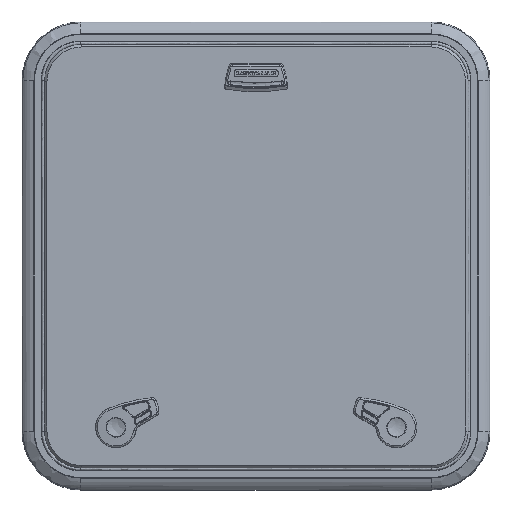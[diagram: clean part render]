
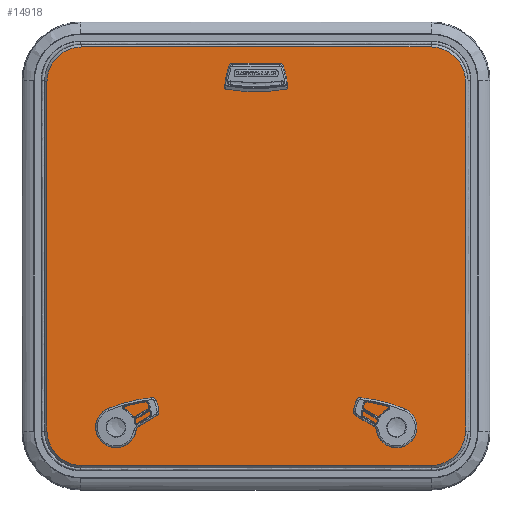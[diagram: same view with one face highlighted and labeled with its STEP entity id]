
A CAD part, top view. The second image highlights one B-rep face of the part: STEP entity #14918.
In plain terms, the highlighted planar face has unit normal (0, 0, 1) as drawn and (0, 1, 0) by its records, which use the part's own axes.
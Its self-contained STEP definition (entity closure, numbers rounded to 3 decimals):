
#13965=CARTESIAN_POINT('',(21.55,10.,-224.5));
#13966=DIRECTION('',(0.,-1.,0.));
#13967=DIRECTION('',(0.,0.,-1.));
#13968=AXIS2_PLACEMENT_3D('',#13965,#13966,#13967);
#13970=DIRECTION('',(1.,0.,0.));
#13971=VECTOR('',#13970,43.1);
#13972=CARTESIAN_POINT('',(-21.55,10.,-230.));
#13973=LINE('',#13972,#13971);
#13974=CARTESIAN_POINT('',(-21.55,10.,-224.5));
#13975=DIRECTION('',(0.,-1.,0.));
#13976=DIRECTION('',(0.,0.,1.));
#13977=AXIS2_PLACEMENT_3D('',#13974,#13975,#13976);
#13979=DIRECTION('',(-1.,0.,0.));
#13980=VECTOR('',#13979,43.1);
#13981=CARTESIAN_POINT('',(21.55,10.,-219.));
#13982=LINE('',#13981,#13980);
#13983=CARTESIAN_POINT('',(-168.198,10.,214.117));
#13984=DIRECTION('',(0.,-1.,0.));
#13985=DIRECTION('',(0.866,0.,-0.5));
#13986=AXIS2_PLACEMENT_3D('',#13983,#13984,#13985);
#13988=DIRECTION('',(0.5,0.,0.866));
#13989=VECTOR('',#13988,10.2);
#13990=CARTESIAN_POINT('',(-168.968,10.,202.783));
#13991=LINE('',#13990,#13989);
#13992=CARTESIAN_POINT('',(-173.298,10.,205.283));
#13993=DIRECTION('',(0.,-1.,0.));
#13994=DIRECTION('',(-0.5,0.,-0.866));
#13995=AXIS2_PLACEMENT_3D('',#13992,#13993,#13994);
#13997=DIRECTION('',(0.866,0.,-0.5));
#13998=VECTOR('',#13997,5.2);
#13999=CARTESIAN_POINT('',(-180.302,10.,203.553));
#14000=LINE('',#13999,#13998);
#14001=CARTESIAN_POINT('',(-177.802,10.,207.883));
#14002=DIRECTION('',(0.,-1.,0.));
#14003=DIRECTION('',(-0.866,0.,0.5));
#14004=AXIS2_PLACEMENT_3D('',#14001,#14002,#14003);
#14006=DIRECTION('',(-0.5,0.,-0.866));
#14007=VECTOR('',#14006,10.2);
#14008=CARTESIAN_POINT('',(-177.032,10.,219.217));
#14009=LINE('',#14008,#14007);
#14010=CARTESIAN_POINT('',(-172.702,10.,216.717));
#14011=DIRECTION('',(0.,-1.,0.));
#14012=DIRECTION('',(0.5,0.,0.866));
#14013=AXIS2_PLACEMENT_3D('',#14010,#14011,#14012);
#14015=DIRECTION('',(-0.866,0.,0.5));
#14016=VECTOR('',#14015,5.2);
#14017=CARTESIAN_POINT('',(-165.698,10.,218.447));
#14018=LINE('',#14017,#14016);
#14019=CARTESIAN_POINT('',(168.198,10.,214.117));
#14020=DIRECTION('',(0.,1.,0.));
#14021=DIRECTION('',(-0.866,0.,-0.5));
#14022=AXIS2_PLACEMENT_3D('',#14019,#14020,#14021);
#14024=DIRECTION('',(0.866,0.,0.5));
#14025=VECTOR('',#14024,5.2);
#14026=CARTESIAN_POINT('',(165.698,10.,218.447));
#14027=LINE('',#14026,#14025);
#14028=CARTESIAN_POINT('',(172.702,10.,216.717));
#14029=DIRECTION('',(0.,1.,0.));
#14030=DIRECTION('',(-0.5,0.,0.866));
#14031=AXIS2_PLACEMENT_3D('',#14028,#14029,#14030);
#14033=DIRECTION('',(0.5,0.,-0.866));
#14034=VECTOR('',#14033,10.2);
#14035=CARTESIAN_POINT('',(177.032,10.,219.217));
#14036=LINE('',#14035,#14034);
#14037=CARTESIAN_POINT('',(177.802,10.,207.883));
#14038=DIRECTION('',(0.,1.,0.));
#14039=DIRECTION('',(0.866,0.,0.5));
#14040=AXIS2_PLACEMENT_3D('',#14037,#14038,#14039);
#14042=DIRECTION('',(-0.866,0.,-0.5));
#14043=VECTOR('',#14042,5.2);
#14044=CARTESIAN_POINT('',(180.302,10.,203.553));
#14045=LINE('',#14044,#14043);
#14046=CARTESIAN_POINT('',(173.298,10.,205.283));
#14047=DIRECTION('',(0.,1.,0.));
#14048=DIRECTION('',(0.5,0.,-0.866));
#14049=AXIS2_PLACEMENT_3D('',#14046,#14047,#14048);
#14051=DIRECTION('',(-0.5,0.,0.866));
#14052=VECTOR('',#14051,10.2);
#14053=CARTESIAN_POINT('',(168.968,10.,202.783));
#14054=LINE('',#14053,#14052);
#14055=DIRECTION('',(-1.,0.,0.));
#14056=VECTOR('',#14055,431.);
#14057=CARTESIAN_POINT('',(215.5,10.,-258.));
#14058=LINE('',#14057,#14056);
#14059=CARTESIAN_POINT('',(215.5,10.,-215.5));
#14060=DIRECTION('',(0.,1.,0.));
#14061=DIRECTION('',(1.,0.,0.));
#14062=AXIS2_PLACEMENT_3D('',#14059,#14060,#14061);
#14064=DIRECTION('',(0.,0.,-1.));
#14065=VECTOR('',#14064,431.);
#14066=CARTESIAN_POINT('',(258.,10.,215.5));
#14067=LINE('',#14066,#14065);
#14068=CARTESIAN_POINT('',(215.5,10.,215.5));
#14069=DIRECTION('',(0.,1.,0.));
#14070=DIRECTION('',(0.,0.,1.));
#14071=AXIS2_PLACEMENT_3D('',#14068,#14069,#14070);
#14073=DIRECTION('',(1.,0.,0.));
#14074=VECTOR('',#14073,431.);
#14075=CARTESIAN_POINT('',(-215.5,10.,258.));
#14076=LINE('',#14075,#14074);
#14077=CARTESIAN_POINT('',(-215.5,10.,215.5));
#14078=DIRECTION('',(0.,1.,0.));
#14079=DIRECTION('',(-1.,0.,0.));
#14080=AXIS2_PLACEMENT_3D('',#14077,#14078,#14079);
#14082=DIRECTION('',(0.,0.,1.));
#14083=VECTOR('',#14082,431.);
#14084=CARTESIAN_POINT('',(-258.,10.,-215.5));
#14085=LINE('',#14084,#14083);
#14086=CARTESIAN_POINT('',(-215.5,10.,-215.5));
#14087=DIRECTION('',(0.,1.,0.));
#14088=DIRECTION('',(0.,0.,-1.));
#14089=AXIS2_PLACEMENT_3D('',#14086,#14087,#14088);
#14330=CARTESIAN_POINT('',(21.55,10.,-230.));
#14331=CARTESIAN_POINT('',(21.55,10.,-219.));
#14332=VERTEX_POINT('',#14330);
#14333=VERTEX_POINT('',#14331);
#14334=CARTESIAN_POINT('',(-21.55,10.,-219.));
#14335=VERTEX_POINT('',#14334);
#14336=CARTESIAN_POINT('',(-21.55,10.,-230.));
#14337=VERTEX_POINT('',#14336);
#14386=CARTESIAN_POINT('',(-163.868,10.,211.617));
#14387=CARTESIAN_POINT('',(-165.698,10.,218.447));
#14388=VERTEX_POINT('',#14386);
#14389=VERTEX_POINT('',#14387);
#14390=CARTESIAN_POINT('',(-170.202,10.,221.047));
#14391=VERTEX_POINT('',#14390);
#14392=CARTESIAN_POINT('',(-177.032,10.,219.217));
#14393=VERTEX_POINT('',#14392);
#14394=CARTESIAN_POINT('',(-182.132,10.,210.383));
#14395=VERTEX_POINT('',#14394);
#14396=CARTESIAN_POINT('',(-180.302,10.,203.553));
#14397=VERTEX_POINT('',#14396);
#14398=CARTESIAN_POINT('',(-175.798,10.,200.953));
#14399=VERTEX_POINT('',#14398);
#14400=CARTESIAN_POINT('',(-168.968,10.,202.783));
#14401=VERTEX_POINT('',#14400);
#14418=CARTESIAN_POINT('',(163.868,10.,211.617));
#14419=CARTESIAN_POINT('',(165.698,10.,218.447));
#14420=VERTEX_POINT('',#14418);
#14421=VERTEX_POINT('',#14419);
#14422=CARTESIAN_POINT('',(170.202,10.,221.047));
#14423=VERTEX_POINT('',#14422);
#14424=CARTESIAN_POINT('',(177.032,10.,219.217));
#14425=VERTEX_POINT('',#14424);
#14426=CARTESIAN_POINT('',(182.132,10.,210.383));
#14427=VERTEX_POINT('',#14426);
#14428=CARTESIAN_POINT('',(180.302,10.,203.553));
#14429=VERTEX_POINT('',#14428);
#14430=CARTESIAN_POINT('',(175.798,10.,200.953));
#14431=VERTEX_POINT('',#14430);
#14432=CARTESIAN_POINT('',(168.968,10.,202.783));
#14433=VERTEX_POINT('',#14432);
#14434=CARTESIAN_POINT('',(215.5,10.,-258.));
#14435=CARTESIAN_POINT('',(-215.5,10.,-258.));
#14436=VERTEX_POINT('',#14434);
#14437=VERTEX_POINT('',#14435);
#14438=CARTESIAN_POINT('',(-258.,10.,-215.5));
#14439=VERTEX_POINT('',#14438);
#14440=CARTESIAN_POINT('',(-258.,10.,215.5));
#14441=VERTEX_POINT('',#14440);
#14442=CARTESIAN_POINT('',(-215.5,10.,258.));
#14443=VERTEX_POINT('',#14442);
#14444=CARTESIAN_POINT('',(215.5,10.,258.));
#14445=VERTEX_POINT('',#14444);
#14446=CARTESIAN_POINT('',(258.,10.,215.5));
#14447=VERTEX_POINT('',#14446);
#14448=CARTESIAN_POINT('',(258.,10.,-215.5));
#14449=VERTEX_POINT('',#14448);
#14850=CARTESIAN_POINT('',(0.,10.,0.));
#14851=DIRECTION('',(0.,1.,0.));
#14852=DIRECTION('',(1.,0.,0.));
#14853=AXIS2_PLACEMENT_3D('',#14850,#14851,#14852);
#14854=PLANE('',#14853);
#14856=ORIENTED_EDGE('',*,*,#14855,.F.);
#14858=ORIENTED_EDGE('',*,*,#14857,.F.);
#14860=ORIENTED_EDGE('',*,*,#14859,.F.);
#14861=ORIENTED_EDGE('',*,*,#14840,.F.);
#14863=ORIENTED_EDGE('',*,*,#14862,.F.);
#14865=ORIENTED_EDGE('',*,*,#14864,.F.);
#14867=ORIENTED_EDGE('',*,*,#14866,.F.);
#14869=ORIENTED_EDGE('',*,*,#14868,.F.);
#14870=EDGE_LOOP('',(#14856,#14858,#14860,#14861,#14863,#14865,#14867,#14869));
#14871=FACE_OUTER_BOUND('',#14870,.F.);
#14873=ORIENTED_EDGE('',*,*,#14872,.F.);
#14875=ORIENTED_EDGE('',*,*,#14874,.F.);
#14877=ORIENTED_EDGE('',*,*,#14876,.F.);
#14879=ORIENTED_EDGE('',*,*,#14878,.F.);
#14880=EDGE_LOOP('',(#14873,#14875,#14877,#14879));
#14881=FACE_BOUND('',#14880,.F.);
#14883=ORIENTED_EDGE('',*,*,#14882,.F.);
#14885=ORIENTED_EDGE('',*,*,#14884,.F.);
#14887=ORIENTED_EDGE('',*,*,#14886,.F.);
#14889=ORIENTED_EDGE('',*,*,#14888,.F.);
#14891=ORIENTED_EDGE('',*,*,#14890,.F.);
#14893=ORIENTED_EDGE('',*,*,#14892,.F.);
#14895=ORIENTED_EDGE('',*,*,#14894,.F.);
#14897=ORIENTED_EDGE('',*,*,#14896,.F.);
#14898=EDGE_LOOP('',(#14883,#14885,#14887,#14889,#14891,#14893,#14895,#14897));
#14899=FACE_BOUND('',#14898,.F.);
#14901=ORIENTED_EDGE('',*,*,#14900,.T.);
#14903=ORIENTED_EDGE('',*,*,#14902,.T.);
#14905=ORIENTED_EDGE('',*,*,#14904,.T.);
#14907=ORIENTED_EDGE('',*,*,#14906,.T.);
#14909=ORIENTED_EDGE('',*,*,#14908,.T.);
#14911=ORIENTED_EDGE('',*,*,#14910,.T.);
#14913=ORIENTED_EDGE('',*,*,#14912,.T.);
#14915=ORIENTED_EDGE('',*,*,#14914,.T.);
#14916=EDGE_LOOP('',(#14901,#14903,#14905,#14907,#14909,#14911,#14913,#14915));
#14917=FACE_BOUND('',#14916,.F.);
#14918=ADVANCED_FACE('',(#14871,#14881,#14899,#14917),#14854,.T.);
#13969=CIRCLE('',#13968,5.5);
#13978=CIRCLE('',#13977,5.5);
#13987=CIRCLE('',#13986,5.);
#13996=CIRCLE('',#13995,5.);
#14005=CIRCLE('',#14004,5.);
#14014=CIRCLE('',#14013,5.);
#14023=CIRCLE('',#14022,5.);
#14032=CIRCLE('',#14031,5.);
#14041=CIRCLE('',#14040,5.);
#14050=CIRCLE('',#14049,5.);
#14063=CIRCLE('',#14062,42.5);
#14072=CIRCLE('',#14071,42.5);
#14081=CIRCLE('',#14080,42.5);
#14090=CIRCLE('',#14089,42.5);
#14840=EDGE_CURVE('',#14445,#14447,#14072,.T.);
#14855=EDGE_CURVE('',#14436,#14437,#14058,.T.);
#14857=EDGE_CURVE('',#14449,#14436,#14063,.T.);
#14859=EDGE_CURVE('',#14447,#14449,#14067,.T.);
#14862=EDGE_CURVE('',#14443,#14445,#14076,.T.);
#14864=EDGE_CURVE('',#14441,#14443,#14081,.T.);
#14866=EDGE_CURVE('',#14439,#14441,#14085,.T.);
#14868=EDGE_CURVE('',#14437,#14439,#14090,.T.);
#14872=EDGE_CURVE('',#14332,#14333,#13969,.T.);
#14874=EDGE_CURVE('',#14337,#14332,#13973,.T.);
#14876=EDGE_CURVE('',#14335,#14337,#13978,.T.);
#14878=EDGE_CURVE('',#14333,#14335,#13982,.T.);
#14882=EDGE_CURVE('',#14388,#14389,#13987,.T.);
#14884=EDGE_CURVE('',#14401,#14388,#13991,.T.);
#14886=EDGE_CURVE('',#14399,#14401,#13996,.T.);
#14888=EDGE_CURVE('',#14397,#14399,#14000,.T.);
#14890=EDGE_CURVE('',#14395,#14397,#14005,.T.);
#14892=EDGE_CURVE('',#14393,#14395,#14009,.T.);
#14894=EDGE_CURVE('',#14391,#14393,#14014,.T.);
#14896=EDGE_CURVE('',#14389,#14391,#14018,.T.);
#14900=EDGE_CURVE('',#14420,#14421,#14023,.T.);
#14902=EDGE_CURVE('',#14421,#14423,#14027,.T.);
#14904=EDGE_CURVE('',#14423,#14425,#14032,.T.);
#14906=EDGE_CURVE('',#14425,#14427,#14036,.T.);
#14908=EDGE_CURVE('',#14427,#14429,#14041,.T.);
#14910=EDGE_CURVE('',#14429,#14431,#14045,.T.);
#14912=EDGE_CURVE('',#14431,#14433,#14050,.T.);
#14914=EDGE_CURVE('',#14433,#14420,#14054,.T.);
